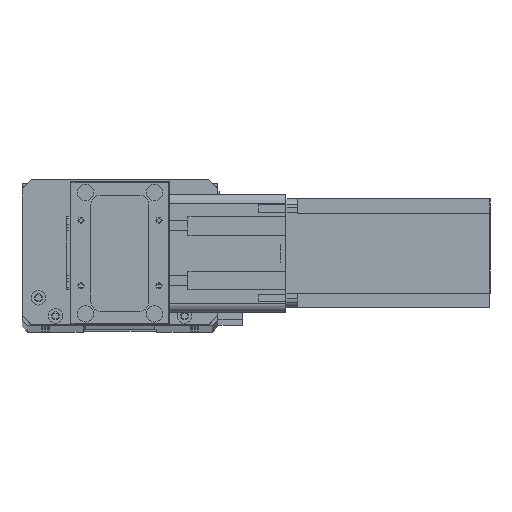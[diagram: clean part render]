
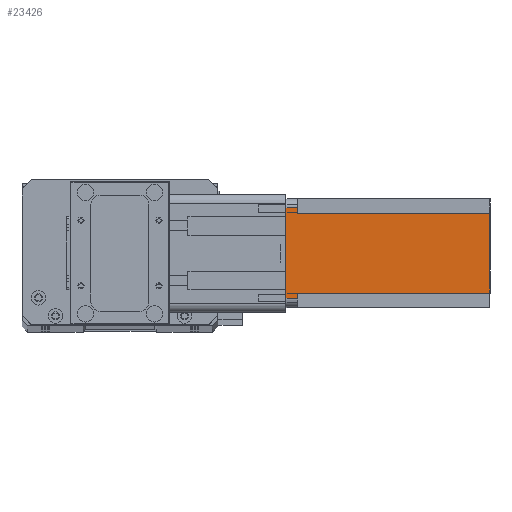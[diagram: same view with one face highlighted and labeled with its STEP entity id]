
A CAD part, top view. The second image highlights one B-rep face of the part: STEP entity #23426.
In plain terms, the highlighted planar face has unit normal (0, 0, 1) as drawn and (0, 1, 0) by its records, which use the part's own axes.
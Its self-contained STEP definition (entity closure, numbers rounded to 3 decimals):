
#185 = EDGE_CURVE ( 'NONE', #8572, #10143, #13135, .T. ) ;
#566 = LINE ( 'NONE', #24585, #22374 ) ;
#743 = LINE ( 'NONE', #25655, #23962 ) ;
#1254 = CARTESIAN_POINT ( 'NONE',  ( 0., 60., 0. ) ) ;
#1437 = DIRECTION ( 'NONE',  ( 0., 1., 0. ) ) ;
#1910 = EDGE_LOOP ( 'NONE', ( #23858, #17237, #27535, #8199, #3034, #5104, #23788, #4201 ) ) ;
#2173 = DIRECTION ( 'NONE',  ( -1., 0., 0. ) ) ;
#2186 = VERTEX_POINT ( 'NONE', #5635 ) ;
#2300 = DIRECTION ( 'NONE',  ( 0., 0., 1. ) ) ;
#3034 = ORIENTED_EDGE ( 'NONE', *, *, #20295, .T. ) ;
#3526 = DIRECTION ( 'NONE',  ( -1., 0., 0. ) ) ;
#4201 = ORIENTED_EDGE ( 'NONE', *, *, #17270, .T. ) ;
#4221 = VERTEX_POINT ( 'NONE', #10089 ) ;
#4408 = LINE ( 'NONE', #15745, #15657 ) ;
#5104 = ORIENTED_EDGE ( 'NONE', *, *, #185, .F. ) ;
#5635 = CARTESIAN_POINT ( 'NONE',  ( 52., 60., -6.5 ) ) ;
#5638 = VERTEX_POINT ( 'NONE', #19624 ) ;
#6043 = LINE ( 'NONE', #8087, #6739 ) ;
#6107 = LINE ( 'NONE', #11000, #11360 ) ;
#6489 = VECTOR ( 'NONE', #19229, 1000. ) ;
#6739 = VECTOR ( 'NONE', #3526, 1000. ) ;
#6995 = DIRECTION ( 'NONE',  ( 0., 0., -1. ) ) ;
#7894 = VECTOR ( 'NONE', #6995, 1000. ) ;
#8087 = CARTESIAN_POINT ( 'NONE',  ( 0., 60., -112.5 ) ) ;
#8199 = ORIENTED_EDGE ( 'NONE', *, *, #9801, .F. ) ;
#8572 = VERTEX_POINT ( 'NONE', #19374 ) ;
#9801 = EDGE_CURVE ( 'NONE', #5638, #2186, #6107, .T. ) ;
#10089 = CARTESIAN_POINT ( 'NONE',  ( 55., 60., -6.5 ) ) ;
#10143 = VERTEX_POINT ( 'NONE', #18722 ) ;
#11000 = CARTESIAN_POINT ( 'NONE',  ( 52., 60., -112.5 ) ) ;
#11360 = VECTOR ( 'NONE', #24393, 1000. ) ;
#13135 = LINE ( 'NONE', #24008, #7894 ) ;
#14810 = CARTESIAN_POINT ( 'NONE',  ( 0., 60., -112.5 ) ) ;
#15564 = AXIS2_PLACEMENT_3D ( 'NONE', #14810, #1437, #17140 ) ;
#15657 = VECTOR ( 'NONE', #2300, 1000. ) ;
#15745 = CARTESIAN_POINT ( 'NONE',  ( 5., 60., -112.5 ) ) ;
#15797 = DIRECTION ( 'NONE',  ( 1., 0., 0. ) ) ;
#15952 = VERTEX_POINT ( 'NONE', #28732 ) ;
#16749 = VERTEX_POINT ( 'NONE', #24950 ) ;
#17140 = DIRECTION ( 'NONE',  ( 0., 0., 1. ) ) ;
#17237 = ORIENTED_EDGE ( 'NONE', *, *, #20210, .T. ) ;
#17270 = EDGE_CURVE ( 'NONE', #15952, #22370, #4408, .T. ) ;
#17618 = VECTOR ( 'NONE', #15797, 1000. ) ;
#17814 = FACE_OUTER_BOUND ( 'NONE', #1910, .T. ) ;
#17823 = CARTESIAN_POINT ( 'NONE',  ( 5., 60., 0. ) ) ;
#18165 = EDGE_CURVE ( 'NONE', #16749, #22370, #23714, .T. ) ;
#18722 = CARTESIAN_POINT ( 'NONE',  ( 8., 60., -112.5 ) ) ;
#19229 = DIRECTION ( 'NONE',  ( -1., 0., 0. ) ) ;
#19374 = CARTESIAN_POINT ( 'NONE',  ( 8., 60., -6.5 ) ) ;
#19624 = CARTESIAN_POINT ( 'NONE',  ( 52., 60., -112.5 ) ) ;
#19661 = EDGE_CURVE ( 'NONE', #2186, #4221, #22912, .T. ) ;
#20210 = EDGE_CURVE ( 'NONE', #16749, #4221, #743, .T. ) ;
#20295 = EDGE_CURVE ( 'NONE', #5638, #10143, #6043, .T. ) ;
#21226 = DIRECTION ( 'NONE',  ( 0., 0., -1. ) ) ;
#22370 = VERTEX_POINT ( 'NONE', #17823 ) ;
#22374 = VECTOR ( 'NONE', #2173, 1000. ) ;
#22912 = LINE ( 'NONE', #27039, #17618 ) ;
#23426 = ADVANCED_FACE ( 'NONE', ( #17814 ), #23854, .T. ) ;
#23714 = LINE ( 'NONE', #1254, #6489 ) ;
#23788 = ORIENTED_EDGE ( 'NONE', *, *, #27859, .T. ) ;
#23854 = PLANE ( 'NONE',  #15564 ) ;
#23858 = ORIENTED_EDGE ( 'NONE', *, *, #18165, .F. ) ;
#23962 = VECTOR ( 'NONE', #21226, 1000. ) ;
#24008 = CARTESIAN_POINT ( 'NONE',  ( 8., 60., -112.5 ) ) ;
#24393 = DIRECTION ( 'NONE',  ( 0., 0., 1. ) ) ;
#24585 = CARTESIAN_POINT ( 'NONE',  ( 8., 60., -6.5 ) ) ;
#24950 = CARTESIAN_POINT ( 'NONE',  ( 55., 60., 0. ) ) ;
#25655 = CARTESIAN_POINT ( 'NONE',  ( 55., 60., -112.5 ) ) ;
#27039 = CARTESIAN_POINT ( 'NONE',  ( 52., 60., -6.5 ) ) ;
#27535 = ORIENTED_EDGE ( 'NONE', *, *, #19661, .F. ) ;
#27859 = EDGE_CURVE ( 'NONE', #8572, #15952, #566, .T. ) ;
#28732 = CARTESIAN_POINT ( 'NONE',  ( 5., 60., -6.5 ) ) ;
